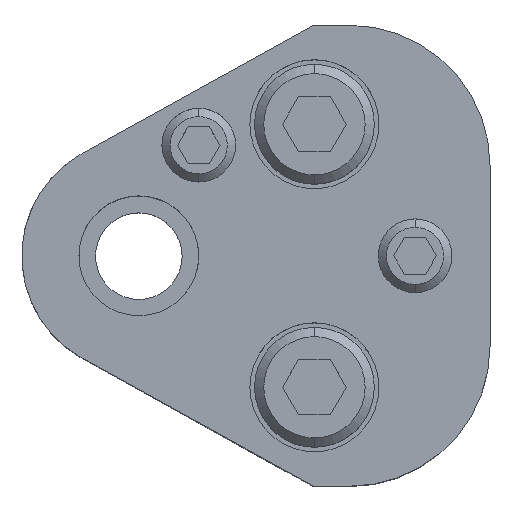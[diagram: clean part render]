
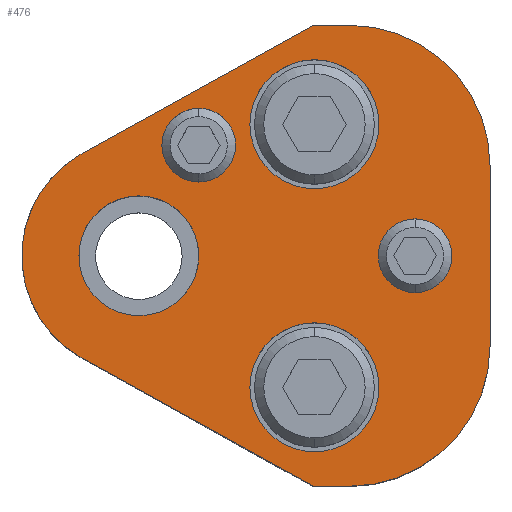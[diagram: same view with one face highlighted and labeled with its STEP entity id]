
A CAD part, top view. The second image highlights one B-rep face of the part: STEP entity #476.
In plain terms, the highlighted planar face has unit normal (0, 0, 1).
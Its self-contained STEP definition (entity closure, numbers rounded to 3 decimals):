
#213=FACE_BOUND('',#843,.T.);
#214=FACE_BOUND('',#844,.T.);
#215=FACE_BOUND('',#845,.T.);
#216=FACE_BOUND('',#846,.T.);
#217=FACE_BOUND('',#847,.T.);
#218=FACE_BOUND('',#848,.T.);
#300=CIRCLE('',#2767,15.2);
#302=CIRCLE('',#2771,15.2);
#304=CIRCLE('',#2776,4.);
#306=CIRCLE('',#2779,4.);
#308=CIRCLE('',#2782,4.);
#310=CIRCLE('',#2785,4.);
#320=CIRCLE('',#2800,12.7);
#321=CIRCLE('',#2801,7.);
#322=CIRCLE('',#2802,7.);
#323=CIRCLE('',#2803,7.);
#324=CIRCLE('',#2804,7.);
#325=CIRCLE('',#2805,6.5);
#326=CIRCLE('',#2806,6.5);
#476=ADVANCED_FACE('',(#213,#214,#215,#216,#217,#218),#592,.T.);
#592=PLANE('',#2807);
#843=EDGE_LOOP('',(#1250,#1251,#1252,#1253,#1254,#1255,#1256,#1257));
#844=EDGE_LOOP('',(#1258,#1259));
#845=EDGE_LOOP('',(#1260,#1261));
#846=EDGE_LOOP('',(#1262,#1263));
#847=EDGE_LOOP('',(#1264,#1265));
#848=EDGE_LOOP('',(#1266,#1267));
#1250=ORIENTED_EDGE('',*,*,#2066,.T.);
#1251=ORIENTED_EDGE('',*,*,#2024,.T.);
#1252=ORIENTED_EDGE('',*,*,#2028,.T.);
#1253=ORIENTED_EDGE('',*,*,#2031,.T.);
#1254=ORIENTED_EDGE('',*,*,#2034,.T.);
#1255=ORIENTED_EDGE('',*,*,#2037,.T.);
#1256=ORIENTED_EDGE('',*,*,#2040,.T.);
#1257=ORIENTED_EDGE('',*,*,#2067,.T.);
#1258=ORIENTED_EDGE('',*,*,#2068,.F.);
#1259=ORIENTED_EDGE('',*,*,#2069,.F.);
#1260=ORIENTED_EDGE('',*,*,#2070,.F.);
#1261=ORIENTED_EDGE('',*,*,#2071,.F.);
#1262=ORIENTED_EDGE('',*,*,#2052,.F.);
#1263=ORIENTED_EDGE('',*,*,#2048,.F.);
#1264=ORIENTED_EDGE('',*,*,#2046,.F.);
#1265=ORIENTED_EDGE('',*,*,#2042,.F.);
#1266=ORIENTED_EDGE('',*,*,#2072,.T.);
#1267=ORIENTED_EDGE('',*,*,#2073,.T.);
#1749=VERTEX_POINT('',#4092);
#1750=VERTEX_POINT('',#4094);
#1753=VERTEX_POINT('',#4101);
#1755=VERTEX_POINT('',#4107);
#1757=VERTEX_POINT('',#4113);
#1759=VERTEX_POINT('',#4119);
#1761=VERTEX_POINT('',#4125);
#1762=VERTEX_POINT('',#4130);
#1763=VERTEX_POINT('',#4131);
#1766=VERTEX_POINT('',#4142);
#1767=VERTEX_POINT('',#4143);
#1778=VERTEX_POINT('',#4178);
#1779=VERTEX_POINT('',#4181);
#1780=VERTEX_POINT('',#4182);
#1781=VERTEX_POINT('',#4185);
#1782=VERTEX_POINT('',#4186);
#1783=VERTEX_POINT('',#4189);
#1784=VERTEX_POINT('',#4190);
#2024=EDGE_CURVE('',#1750,#1749,#2332,.T.);
#2028=EDGE_CURVE('',#1749,#1753,#300,.T.);
#2031=EDGE_CURVE('',#1753,#1755,#2337,.T.);
#2034=EDGE_CURVE('',#1755,#1757,#302,.T.);
#2037=EDGE_CURVE('',#1757,#1759,#2341,.T.);
#2040=EDGE_CURVE('',#1759,#1761,#2344,.T.);
#2042=EDGE_CURVE('',#1762,#1763,#304,.T.);
#2046=EDGE_CURVE('',#1763,#1762,#306,.T.);
#2048=EDGE_CURVE('',#1766,#1767,#308,.T.);
#2052=EDGE_CURVE('',#1767,#1766,#310,.T.);
#2066=EDGE_CURVE('',#1778,#1750,#2354,.T.);
#2067=EDGE_CURVE('',#1761,#1778,#320,.T.);
#2068=EDGE_CURVE('',#1779,#1780,#321,.T.);
#2069=EDGE_CURVE('',#1780,#1779,#322,.T.);
#2070=EDGE_CURVE('',#1781,#1782,#323,.T.);
#2071=EDGE_CURVE('',#1782,#1781,#324,.T.);
#2072=EDGE_CURVE('',#1783,#1784,#325,.T.);
#2073=EDGE_CURVE('',#1784,#1783,#326,.T.);
#2332=LINE('',#4093,#2533);
#2337=LINE('',#4108,#2538);
#2341=LINE('',#4120,#2542);
#2344=LINE('',#4126,#2545);
#2354=LINE('',#4177,#2555);
#2533=VECTOR('',#3243,1.);
#2538=VECTOR('',#3256,1.);
#2542=VECTOR('',#3268,1.);
#2545=VECTOR('',#3273,1.);
#2555=VECTOR('',#3333,1.);
#2767=AXIS2_PLACEMENT_3D('',#4102,#3249,#3250);
#2771=AXIS2_PLACEMENT_3D('',#4114,#3261,#3262);
#2776=AXIS2_PLACEMENT_3D('',#4129,#3277,#3278);
#2779=AXIS2_PLACEMENT_3D('',#4138,#3285,#3286);
#2782=AXIS2_PLACEMENT_3D('',#4141,#3291,#3292);
#2785=AXIS2_PLACEMENT_3D('',#4150,#3299,#3300);
#2800=AXIS2_PLACEMENT_3D('',#4179,#3334,#3335);
#2801=AXIS2_PLACEMENT_3D('',#4180,#3336,#3337);
#2802=AXIS2_PLACEMENT_3D('',#4183,#3338,#3339);
#2803=AXIS2_PLACEMENT_3D('',#4184,#3340,#3341);
#2804=AXIS2_PLACEMENT_3D('',#4187,#3342,#3343);
#2805=AXIS2_PLACEMENT_3D('',#4188,#3344,#3345);
#2806=AXIS2_PLACEMENT_3D('',#4191,#3346,#3347);
#2807=AXIS2_PLACEMENT_3D('',#4192,#3348,#3349);
#3243=DIRECTION('',(1.,0.,0.));
#3249=DIRECTION('',(0.,0.,1.));
#3250=DIRECTION('',(-0.707,0.707,0.));
#3256=DIRECTION('',(0.,1.,0.));
#3261=DIRECTION('',(0.,0.,1.));
#3262=DIRECTION('',(-0.707,-0.707,0.));
#3268=DIRECTION('',(-1.,0.,0.));
#3273=DIRECTION('',(-0.875,-0.485,0.));
#3277=DIRECTION('',(0.,0.,1.));
#3278=DIRECTION('',(-1.,0.,0.));
#3285=DIRECTION('',(0.,0.,1.));
#3286=DIRECTION('',(1.,0.,0.));
#3291=DIRECTION('',(0.,0.,1.));
#3292=DIRECTION('',(-1.,0.,0.));
#3299=DIRECTION('',(0.,0.,1.));
#3300=DIRECTION('',(1.,0.,0.));
#3333=DIRECTION('',(0.875,-0.485,0.));
#3334=DIRECTION('',(0.,0.,1.));
#3335=DIRECTION('',(1.,0.,0.));
#3336=DIRECTION('',(0.,0.,1.));
#3337=DIRECTION('',(1.,0.,0.));
#3338=DIRECTION('',(0.,0.,1.));
#3339=DIRECTION('',(-1.,0.,0.));
#3340=DIRECTION('',(0.,0.,1.));
#3341=DIRECTION('',(1.,0.,0.));
#3342=DIRECTION('',(0.,0.,1.));
#3343=DIRECTION('',(-1.,0.,0.));
#3344=DIRECTION('',(0.,0.,-1.));
#3345=DIRECTION('',(-1.,0.,0.));
#3346=DIRECTION('',(0.,0.,-1.));
#3347=DIRECTION('',(1.,0.,0.));
#3348=DIRECTION('',(0.,0.,1.));
#3349=DIRECTION('',(-0.875,0.485,0.));
#4092=CARTESIAN_POINT('',(22.9,-25.,30.));
#4093=CARTESIAN_POINT('',(18.905,-25.,30.));
#4094=CARTESIAN_POINT('',(18.905,-25.,30.));
#4101=CARTESIAN_POINT('',(38.1,-9.8,30.));
#4102=CARTESIAN_POINT('',(22.9,-9.8,30.));
#4107=CARTESIAN_POINT('',(38.1,9.8,30.));
#4108=CARTESIAN_POINT('',(38.1,9.8,30.));
#4113=CARTESIAN_POINT('',(22.9,25.,30.));
#4114=CARTESIAN_POINT('',(22.9,9.8,30.));
#4119=CARTESIAN_POINT('',(18.905,25.,30.));
#4120=CARTESIAN_POINT('',(18.905,25.,30.));
#4125=CARTESIAN_POINT('',(-6.157,11.108,30.));
#4126=CARTESIAN_POINT('',(18.905,25.,30.));
#4129=CARTESIAN_POINT('',(6.5,12.,30.));
#4130=CARTESIAN_POINT('',(6.5,8.,30.));
#4131=CARTESIAN_POINT('',(6.5,16.,30.));
#4138=CARTESIAN_POINT('',(6.5,12.,30.));
#4141=CARTESIAN_POINT('',(29.97,0.,30.));
#4142=CARTESIAN_POINT('',(29.97,-4.,30.));
#4143=CARTESIAN_POINT('',(29.97,4.,30.));
#4150=CARTESIAN_POINT('',(29.97,0.,30.));
#4177=CARTESIAN_POINT('',(18.905,-25.,30.));
#4178=CARTESIAN_POINT('',(-6.157,-11.108,30.));
#4179=CARTESIAN_POINT('',(0.,0.,30.));
#4180=CARTESIAN_POINT('',(19.05,14.27,30.));
#4181=CARTESIAN_POINT('',(19.05,21.27,30.));
#4182=CARTESIAN_POINT('',(19.05,7.27,30.));
#4183=CARTESIAN_POINT('',(19.05,14.27,30.));
#4184=CARTESIAN_POINT('',(19.05,-14.27,30.));
#4185=CARTESIAN_POINT('',(19.05,-7.27,30.));
#4186=CARTESIAN_POINT('',(19.05,-21.27,30.));
#4187=CARTESIAN_POINT('',(19.05,-14.27,30.));
#4188=CARTESIAN_POINT('',(0.,0.,30.));
#4189=CARTESIAN_POINT('',(0.,6.5,30.));
#4190=CARTESIAN_POINT('',(0.,-6.5,30.));
#4191=CARTESIAN_POINT('',(0.,0.,30.));
#4192=CARTESIAN_POINT('',(-6.157,-11.108,30.));
